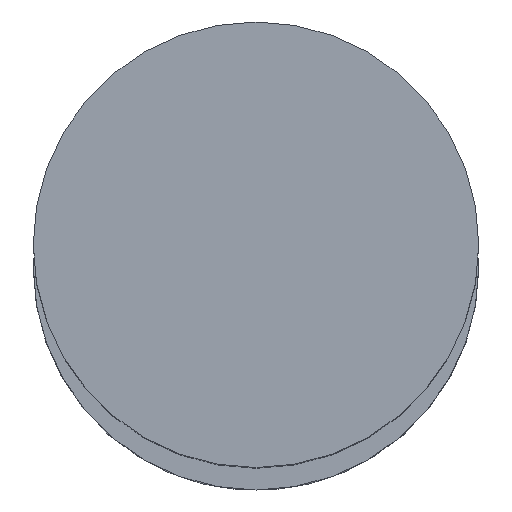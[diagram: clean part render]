
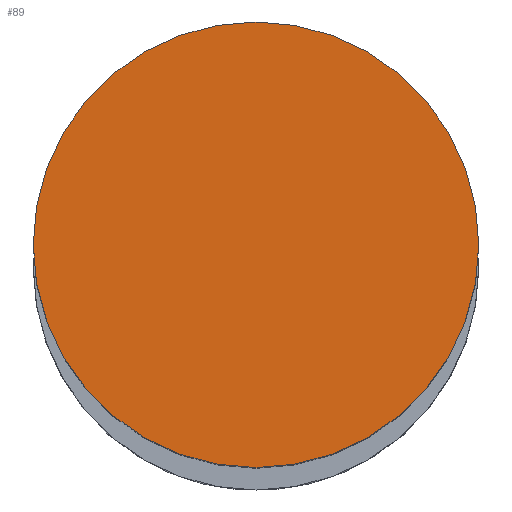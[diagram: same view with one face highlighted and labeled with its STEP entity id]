
A CAD part, top view. The second image highlights one B-rep face of the part: STEP entity #89.
In plain terms, the highlighted planar face has unit normal (0, 0, 1).
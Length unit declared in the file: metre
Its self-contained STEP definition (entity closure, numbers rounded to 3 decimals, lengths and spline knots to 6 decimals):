
#89=ADVANCED_FACE('0:129',(#177),#178,.T.);
#177=FACE_OUTER_BOUND('',#269,.T.);
#178=PLANE('',#270);
#269=EDGE_LOOP('',(#430,#431));
#270=AXIS2_PLACEMENT_3D('',#432,#433,#434);
#430=ORIENTED_EDGE('',*,*,#503,.F.);
#431=ORIENTED_EDGE('',*,*,#549,.F.);
#432=CARTESIAN_POINT('',(0.,0.,0.389));
#433=DIRECTION('',(0.0,0.0,1.0));
#434=DIRECTION('',(1.0,0.0,0.0));
#503=EDGE_CURVE('13:581',#587,#583,#589,.F.);
#549=EDGE_CURVE('',#583,#587,#656,.F.);
#583=VERTEX_POINT('',#707);
#587=VERTEX_POINT('',#712);
#589=CIRCLE('',#715,0.008);
#656=CIRCLE('',#796,0.008);
#707=CARTESIAN_POINT('',(0.00789,0.000133,0.389));
#712=CARTESIAN_POINT('',(-0.00811,0.000133,0.389));
#715=AXIS2_PLACEMENT_3D('',#856,#857,#858);
#796=AXIS2_PLACEMENT_3D('',#924,#925,#926);
#856=CARTESIAN_POINT('',(-0.00011,0.000133,0.389));
#857=DIRECTION('',(0.0,0.0,1.0));
#858=DIRECTION('',(1.0,0.0,0.0));
#924=CARTESIAN_POINT('',(-0.00011,0.000133,0.389));
#925=DIRECTION('',(0.0,0.0,1.0));
#926=DIRECTION('',(1.0,0.0,0.0));
